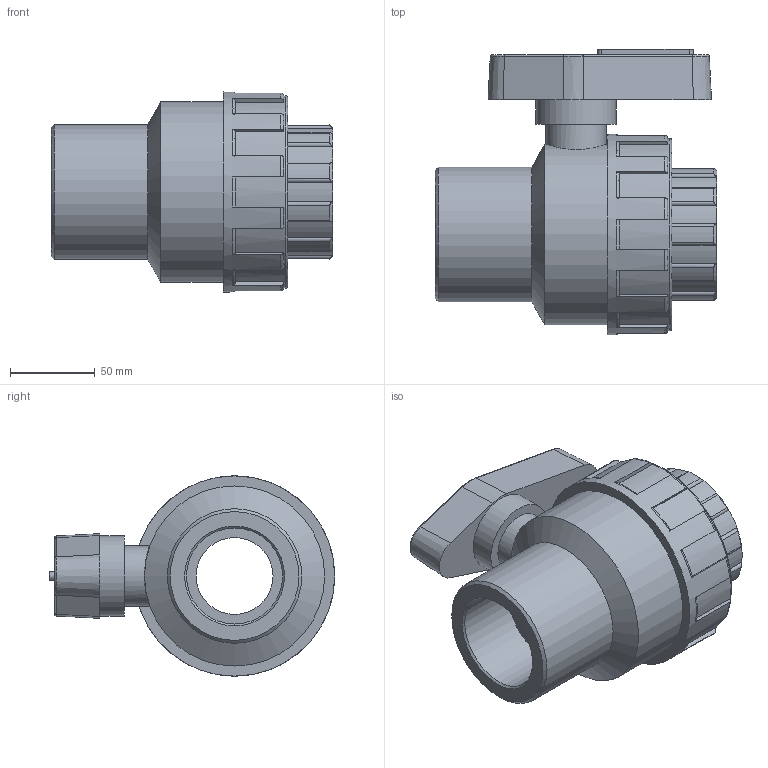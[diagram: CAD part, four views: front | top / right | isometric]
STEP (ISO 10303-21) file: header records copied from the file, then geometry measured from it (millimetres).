
FILE_DESCRIPTION(/* description */ ('PLASSON 1/NUT VALVE FEMALE THREADED 2" PVC'),/* implementation_level */ '2;1');
FILE_NAME(/* name */ 'C:\Dropbox\KIMPROJECTS-Inventor\99-16-3568-Processing\PVC Catalog 2017\113510\11351020.ipt.stp',/* time_stamp */ '2017-12-07T16:12:10+02:00',/* author */ ('KIM'),/* organization */ (''),/* preprocessor_version */ 'ST-DEVELOPER v15.6',/* originating_system */ 'Autodesk Inventor 2015',/* authorisation */ '');
FILE_SCHEMA (('AUTOMOTIVE_DESIGN { 1 0 10303 214 3 1 1 }'));
Length unit declared in the file: millimetre
Products named in the file (1): 11351020
Bounding box: 166 x 168.18 x 118 mm (x, y, z)
Volume: 1003987.6 mm3; surface area: 112335.4 mm2
Topology: 1 solids, 1 shells, 166 faces, 439 edges, 282 vertices
Faces by surface type: plane 64, cylinder 55, torus 29, cone 18
Full cylindrical faces by diameter (mm): 35.4 x1, 45.325 x1, 47.2 x1, 56.656 x2, 79.318 x1, 106.2 x1, 113.28 x1, 118 x1
Entity records: 5650 total; most frequent: CARTESIAN_POINT 1578, DIRECTION 868, ORIENTED_EDGE 836, EDGE_CURVE 418, AXIS2_PLACEMENT_3D 352, VERTEX_POINT 276, EDGE_LOOP 190, CIRCLE 185
